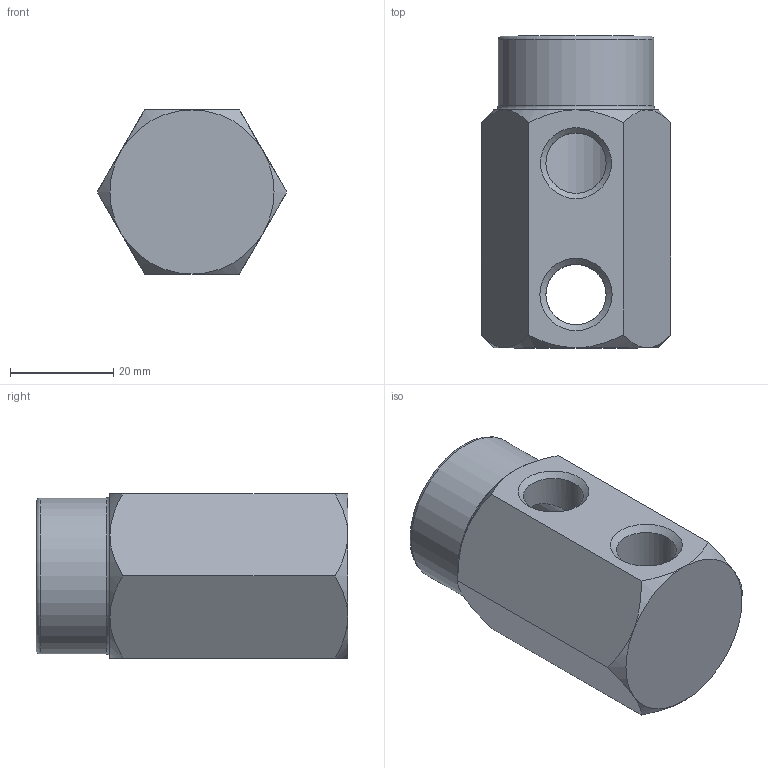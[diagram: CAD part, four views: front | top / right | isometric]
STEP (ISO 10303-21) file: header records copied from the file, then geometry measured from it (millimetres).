
FILE_DESCRIPTION(/* description */ (''),/* implementation_level */ '2;1');
FILE_NAME(/* name */ 'C:/Users/drich/Desktop/121H-4-HFT v1.step',/* time_stamp */ '2020-01-10T20:23:43-06:00',/* author */ (''),/* organization */ (''),/* preprocessor_version */ 'ST-DEVELOPER v18',/* originating_system */ 'Autodesk Translation Framework v8.12.0.6',/* authorisation */ '');
FILE_SCHEMA (('AUTOMOTIVE_DESIGN { 1 0 10303 214 3 1 1 }'));
Length unit declared in the file: inch
Products named in the file (2): 121H-4-HFT; 121H-4
Assembly tree (1 placements, depth 2):
  121H-4-HFT
    121H-4
Bounding box: 36.66 x 60.31 x 31.75 mm (x, y, z)
Volume: 35557 mm3; surface area: 11000.5 mm2
Topology: 1 solids, 1 shells, 38 faces, 97 edges, 61 vertices
Faces by surface type: cone 21, plane 9, cylinder 6, torus 2
Full cylindrical faces by diameter (mm): 11.468 x1, 11.668 x3, 18.901 x1, 30.15 x1
Entity records: 1310 total; most frequent: CARTESIAN_POINT 377, ORIENTED_EDGE 194, DIRECTION 185, EDGE_CURVE 97, AXIS2_PLACEMENT_3D 84, VERTEX_POINT 61, EDGE_LOOP 44, CIRCLE 43
